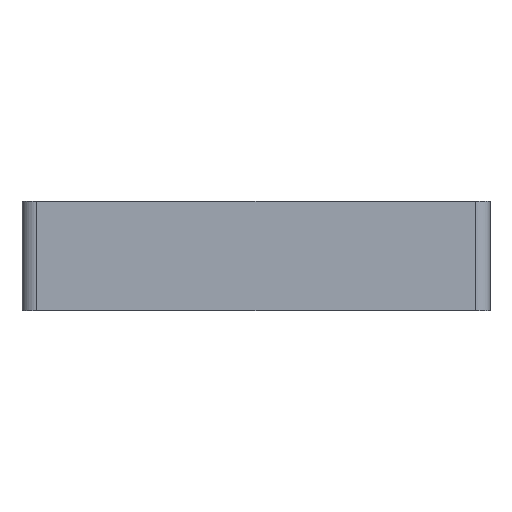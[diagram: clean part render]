
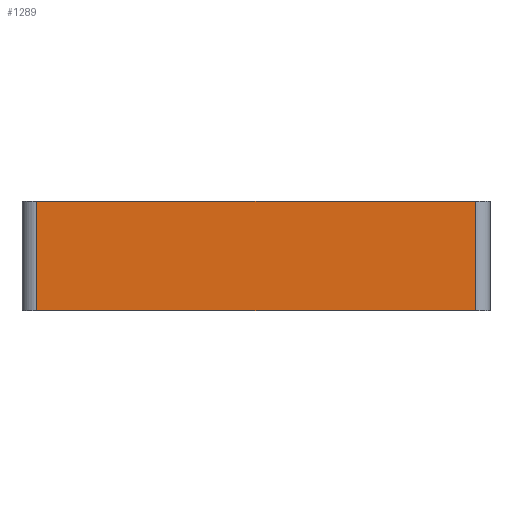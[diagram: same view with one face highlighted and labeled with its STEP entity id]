
A CAD part, front view. The second image highlights one B-rep face of the part: STEP entity #1289.
In plain terms, the highlighted planar face has unit normal (0, -1, 0).
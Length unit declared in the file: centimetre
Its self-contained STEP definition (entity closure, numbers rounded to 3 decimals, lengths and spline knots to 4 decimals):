
#67=PLANE('',#1400);
#105=FACE_OUTER_BOUND('',#196,.T.);
#196=EDGE_LOOP('',(#923,#924,#925,#926));
#279=LINE('',#2014,#374);
#287=LINE('',#2053,#382);
#288=LINE('',#2055,#383);
#289=LINE('',#2056,#384);
#374=VECTOR('',#1595,7.493);
#382=VECTOR('',#1633,1.8796);
#383=VECTOR('',#1634,7.493);
#384=VECTOR('',#1635,1.8796);
#581=VERTEX_POINT('',#2011);
#582=VERTEX_POINT('',#2013);
#598=VERTEX_POINT('',#2052);
#599=VERTEX_POINT('',#2054);
#713=EDGE_CURVE('',#582,#581,#279,.T.);
#730=EDGE_CURVE('',#598,#581,#287,.T.);
#731=EDGE_CURVE('',#599,#598,#288,.T.);
#732=EDGE_CURVE('',#582,#599,#289,.T.);
#923=ORIENTED_EDGE('',*,*,#730,.F.);
#924=ORIENTED_EDGE('',*,*,#731,.F.);
#925=ORIENTED_EDGE('',*,*,#732,.F.);
#926=ORIENTED_EDGE('',*,*,#713,.T.);
#1289=ADVANCED_FACE('',(#105),#67,.T.);
#1400=AXIS2_PLACEMENT_3D('',#2051,#1631,#1632);
#1595=DIRECTION('',(1.,0.,0.));
#1631=DIRECTION('center_axis',(0.,-1.,0.));
#1632=DIRECTION('ref_axis',(0.,0.,-1.));
#1633=DIRECTION('',(0.,0.,-1.));
#1634=DIRECTION('',(1.,0.,0.));
#1635=DIRECTION('',(0.,0.,1.));
#2011=CARTESIAN_POINT('',(7.493,-0.0762,0.));
#2013=CARTESIAN_POINT('',(0.,-0.0762,0.));
#2014=CARTESIAN_POINT('',(0.,-0.0762,0.));
#2051=CARTESIAN_POINT('Origin',(-0.3747,-0.0762,-0.094));
#2052=CARTESIAN_POINT('',(7.493,-0.0762,1.8796));
#2053=CARTESIAN_POINT('',(7.493,-0.0762,1.8796));
#2054=CARTESIAN_POINT('',(0.,-0.0762,1.8796));
#2055=CARTESIAN_POINT('',(0.,-0.0762,1.8796));
#2056=CARTESIAN_POINT('',(0.,-0.0762,0.));
